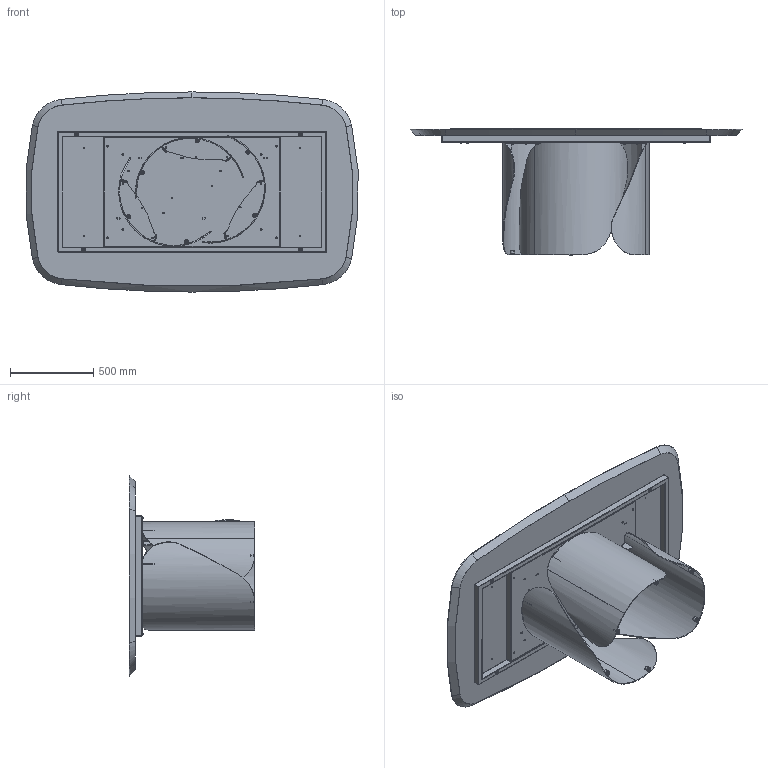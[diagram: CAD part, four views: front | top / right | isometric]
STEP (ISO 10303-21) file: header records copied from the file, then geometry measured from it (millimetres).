
FILE_DESCRIPTION (( 'STEP AP203' ), '1' );
FILE_NAME ('ON41W.STEP', '2024-08-06T13:54:12', ( '' ), ( '' ), 'SwSTEP 2.0', 'SolidWorks 2022', '' );
FILE_SCHEMA (( 'CONFIG_CONTROL_DESIGN' ));
Length unit declared in the file: millimetre
Products named in the file (15): COLLO TELAIO UNIVERSALE TTAV0601 CON FERRAMENTA_FERRAMENTA MTG TOP LEGNO-MARMO-KING; M8xXXmm_M8x20mm; OND000000-03-ONDA BASE GREZZA; TTAV0601-00-TELAIO X TAVOLI PLAI ONDA NOA 240cm_TTAV06; M8xXXmm_M8x55mm; COLLO BASE ONDA SINGOLA CON FERRAMENTA; OND000000_03-00-LAMIERA CURVATA PRINCIPALE_OND00000X-00-ONDA BASE GREZZA PROTOTIPO; ON41W; TTAV0601_02-00-VASSOIO TAVOLI PLAI ONDA NOA 240; W4XCMXX-00-Piani Sagomati legno_ 2000 x 1200; OND000000_02-00-CILINDRO DI FISSAGGIO Ø25X17 M8; OND000000_01-00-PIASTRA SUPERIORE BASE ONDA; PIEDINO PER ONDA; TTAV0601_01-00-STRUTTURA X TAVOLI PLAI ONDA NOA 240; rondella M8_8X24
Assembly tree (47 placements, depth 4):
  ON41W
    COLLO TELAIO UNIVERSALE TTAV0601 CON FERRAMENTA_FERRAMENTA MTG TOP LEGNO-MARMO-KING
      TTAV0601-00-TELAIO X TAVOLI PLAI ONDA NOA 240cm_TTAV06
        TTAV0601_02-00-VASSOIO TAVOLI PLAI ONDA NOA 240
        TTAV0601_01-00-STRUTTURA X TAVOLI PLAI ONDA NOA 240
      rondella M8_8X24  x4
      M8xXXmm_M8x55mm  x4
    COLLO BASE ONDA SINGOLA CON FERRAMENTA  x3
      OND000000-03-ONDA BASE GREZZA
        OND000000_03-00-LAMIERA CURVATA PRINCIPALE_OND00000X-00-ONDA BASE GREZZA PROTOTIPO
        OND000000_01-00-PIASTRA SUPERIORE BASE ONDA
        OND000000_02-00-CILINDRO DI FISSAGGIO Ø25X17 M8  x2
      PIEDINO PER ONDA
    rondella M8_8X24  x12
    M8xXXmm_M8x20mm  x12
    W4XCMXX-00-Piani Sagomati legno_ 2000 x 1200
Bounding box: 1990.53 x 754 x 1200 mm (x, y, z)
Volume: 94358047.1 mm3; surface area: 10865039.7 mm2
Topology: 59 solids, 59 shells, 1742 faces, 3969 edges, 2357 vertices
Faces by surface type: plane 618, cylinder 538, cone 293, torus 225, bspline 60, sphere 8
Entity records: 23982 total; most frequent: CARTESIAN_POINT 5310, DIRECTION 3555, ORIENTED_EDGE 3222, EDGE_CURVE 1611, AXIS2_PLACEMENT_3D 1354, VERTEX_POINT 981, LINE 847, VECTOR 847
